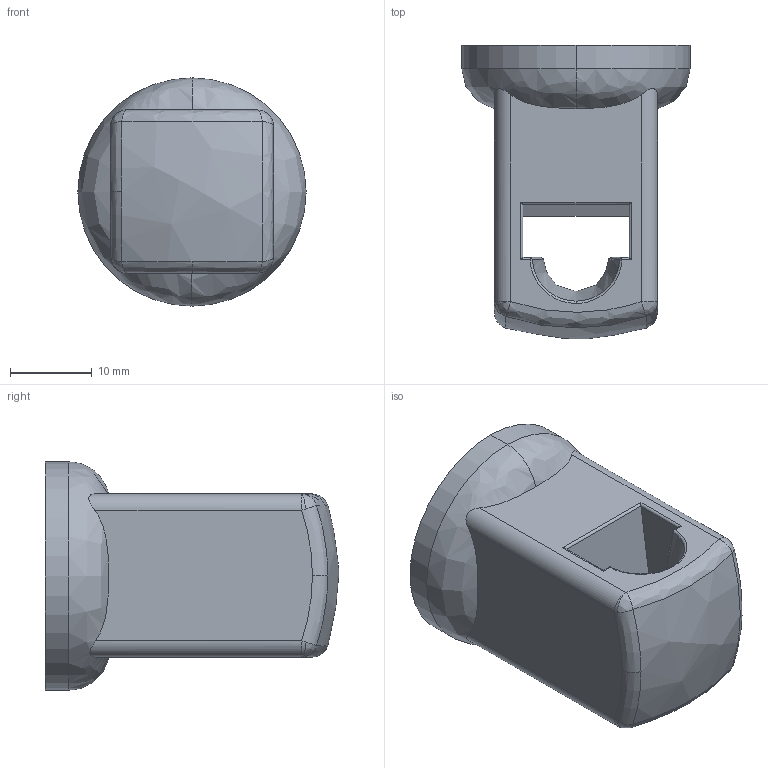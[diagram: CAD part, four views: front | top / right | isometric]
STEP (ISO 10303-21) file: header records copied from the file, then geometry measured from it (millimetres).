
FILE_DESCRIPTION (( 'STEP AP214' ), '1' );
FILE_NAME ('PROWADNICA FI 8.STEP', '2010-03-02T18:06:57', ( '£ukaszC' ), ( '' ), 'SwSTEP 2.0', 'SolidWorks 2008', '' );
FILE_SCHEMA (( 'AUTOMOTIVE_DESIGN' ));
Length unit declared in the file: millimetre
Products named in the file (1): PROWADNICA FI 8
Bounding box: 28 x 36.01 x 28 mm (x, y, z)
Volume: 10787.8 mm3; surface area: 4903 mm2
Topology: 1 solids, 1 shells, 61 faces, 149 edges, 91 vertices
Faces by surface type: bspline 25, cylinder 22, plane 14
Entity records: 2931 total; most frequent: CARTESIAN_POINT 1630, ORIENTED_EDGE 294, DIRECTION 223, EDGE_CURVE 147, VERTEX_POINT 91, AXIS2_PLACEMENT_3D 90, EDGE_LOOP 66, ADVANCED_FACE 61
